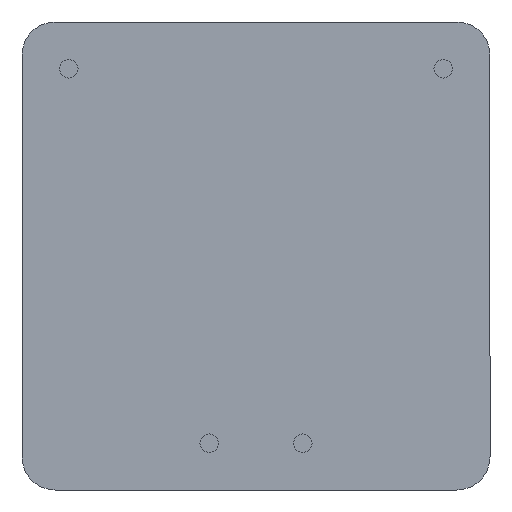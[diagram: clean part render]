
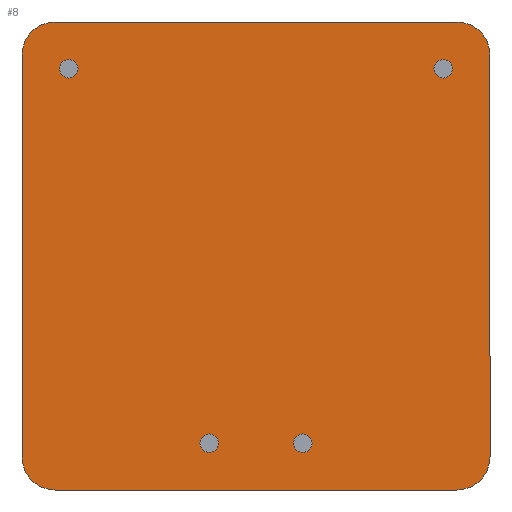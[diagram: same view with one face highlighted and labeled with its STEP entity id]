
A CAD part, front view. The second image highlights one B-rep face of the part: STEP entity #8.
In plain terms, the highlighted planar face has unit normal (0, -1, 0).
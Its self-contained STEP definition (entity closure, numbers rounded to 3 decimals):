
#8 = ADVANCED_FACE ( 'NONE', ( #973, #96, #1054, #1269, #175 ), #875, .F. ) ;
#44 = ORIENTED_EDGE ( 'NONE', *, *, #104, .T. ) ;
#50 = VERTEX_POINT ( 'NONE', #492 ) ;
#57 = CIRCLE ( 'NONE', #609, 0.5 ) ;
#58 = CIRCLE ( 'NONE', #780, 0.5 ) ;
#68 = ORIENTED_EDGE ( 'NONE', *, *, #709, .T. ) ;
#74 = DIRECTION ( 'NONE',  ( 0., 0., -1. ) ) ;
#78 = DIRECTION ( 'NONE',  ( 0., 1., 0. ) ) ;
#86 = LINE ( 'NONE', #1057, #587 ) ;
#96 = FACE_BOUND ( 'NONE', #1090, .T. ) ;
#104 = EDGE_CURVE ( 'NONE', #762, #664, #58, .T. ) ;
#112 = DIRECTION ( 'NONE',  ( 0., 0., 1. ) ) ;
#123 = VERTEX_POINT ( 'NONE', #910 ) ;
#134 = CARTESIAN_POINT ( 'NONE',  ( -10.16, -10.2, -22.86 ) ) ;
#149 = CARTESIAN_POINT ( 'NONE',  ( -10.16, -10.2, -22.86 ) ) ;
#155 = AXIS2_PLACEMENT_3D ( 'NONE', #805, #620, #732 ) ;
#166 = CARTESIAN_POINT ( 'NONE',  ( -15.24, -10.2, -22.86 ) ) ;
#175 = FACE_OUTER_BOUND ( 'NONE', #672, .T. ) ;
#186 = DIRECTION ( 'NONE',  ( 0., -1., 0. ) ) ;
#187 = AXIS2_PLACEMENT_3D ( 'NONE', #166, #78, #756 ) ;
#188 = DIRECTION ( 'NONE',  ( 0., -1., 0. ) ) ;
#191 = CIRCLE ( 'NONE', #424, 1.8 ) ;
#197 = LINE ( 'NONE', #1202, #1260 ) ;
#198 = ORIENTED_EDGE ( 'NONE', *, *, #332, .T. ) ;
#204 = DIRECTION ( 'NONE',  ( -1., 0., 0. ) ) ;
#207 = DIRECTION ( 'NONE',  ( 0., 0., 1. ) ) ;
#233 = AXIS2_PLACEMENT_3D ( 'NONE', #593, #971, #597 ) ;
#236 = AXIS2_PLACEMENT_3D ( 'NONE', #908, #500, #719 ) ;
#262 = CARTESIAN_POINT ( 'NONE',  ( -2.54, -10.2, -2.54 ) ) ;
#280 = ORIENTED_EDGE ( 'NONE', *, *, #602, .T. ) ;
#282 = ORIENTED_EDGE ( 'NONE', *, *, #454, .T. ) ;
#287 = ORIENTED_EDGE ( 'NONE', *, *, #312, .T. ) ;
#307 = ORIENTED_EDGE ( 'NONE', *, *, #586, .T. ) ;
#310 = CARTESIAN_POINT ( 'NONE',  ( 0., -10.2, 0. ) ) ;
#312 = EDGE_CURVE ( 'NONE', #1128, #50, #397, .T. ) ;
#316 = DIRECTION ( 'NONE',  ( 0., 0., 1. ) ) ;
#320 = VECTOR ( 'NONE', #204, 1000. ) ;
#332 = EDGE_CURVE ( 'NONE', #50, #1065, #1206, .T. ) ;
#339 = ORIENTED_EDGE ( 'NONE', *, *, #470, .T. ) ;
#341 = EDGE_CURVE ( 'NONE', #664, #762, #348, .T. ) ;
#342 = DIRECTION ( 'NONE',  ( 0., 1., 0. ) ) ;
#348 = CIRCLE ( 'NONE', #155, 0.5 ) ;
#362 = AXIS2_PLACEMENT_3D ( 'NONE', #415, #188, #1009 ) ;
#371 = ORIENTED_EDGE ( 'NONE', *, *, #983, .T. ) ;
#376 = EDGE_CURVE ( 'NONE', #1065, #532, #1011, .T. ) ;
#378 = DIRECTION ( 'NONE',  ( 0., 1., 0. ) ) ;
#383 = CIRCLE ( 'NONE', #1177, 0.5 ) ;
#392 = CARTESIAN_POINT ( 'NONE',  ( -23.6, -10.2, -1.8 ) ) ;
#394 = EDGE_CURVE ( 'NONE', #569, #123, #197, .T. ) ;
#397 = LINE ( 'NONE', #310, #1003 ) ;
#405 = CARTESIAN_POINT ( 'NONE',  ( -10.16, -10.2, -23.36 ) ) ;
#415 = CARTESIAN_POINT ( 'NONE',  ( -1.8, -10.2, -23.6 ) ) ;
#420 = EDGE_LOOP ( 'NONE', ( #280, #282 ) ) ;
#424 = AXIS2_PLACEMENT_3D ( 'NONE', #392, #186, #207 ) ;
#426 = CARTESIAN_POINT ( 'NONE',  ( -1.8, -10.2, 0. ) ) ;
#429 = ORIENTED_EDGE ( 'NONE', *, *, #629, .T. ) ;
#451 = VERTEX_POINT ( 'NONE', #1144 ) ;
#453 = CARTESIAN_POINT ( 'NONE',  ( -10.16, -10.2, -22.36 ) ) ;
#454 = EDGE_CURVE ( 'NONE', #832, #1001, #467, .T. ) ;
#467 = CIRCLE ( 'NONE', #725, 0.5 ) ;
#470 = EDGE_CURVE ( 'NONE', #538, #451, #1125, .T. ) ;
#474 = CARTESIAN_POINT ( 'NONE',  ( -2.54, -10.2, -2.54 ) ) ;
#476 = DIRECTION ( 'NONE',  ( 0., 1., 0. ) ) ;
#491 = DIRECTION ( 'NONE',  ( 0., 1., 0. ) ) ;
#492 = CARTESIAN_POINT ( 'NONE',  ( 0., -10.2, -1.8 ) ) ;
#500 = DIRECTION ( 'NONE',  ( 0., -1., 0. ) ) ;
#510 = DIRECTION ( 'NONE',  ( 0., 0., 1. ) ) ;
#521 = EDGE_CURVE ( 'NONE', #451, #538, #1018, .T. ) ;
#532 = VERTEX_POINT ( 'NONE', #594 ) ;
#538 = VERTEX_POINT ( 'NONE', #618 ) ;
#543 = CIRCLE ( 'NONE', #233, 1.8 ) ;
#562 = ORIENTED_EDGE ( 'NONE', *, *, #822, .T. ) ;
#569 = VERTEX_POINT ( 'NONE', #576 ) ;
#576 = CARTESIAN_POINT ( 'NONE',  ( -23.6, -10.2, -25.4 ) ) ;
#586 = EDGE_CURVE ( 'NONE', #814, #569, #543, .T. ) ;
#587 = VECTOR ( 'NONE', #74, 1000. ) ;
#593 = CARTESIAN_POINT ( 'NONE',  ( -23.6, -10.2, -23.6 ) ) ;
#594 = CARTESIAN_POINT ( 'NONE',  ( -23.6, -10.2, 0. ) ) ;
#597 = DIRECTION ( 'NONE',  ( 0., 0., 1. ) ) ;
#602 = EDGE_CURVE ( 'NONE', #1001, #832, #57, .T. ) ;
#609 = AXIS2_PLACEMENT_3D ( 'NONE', #474, #378, #995 ) ;
#618 = CARTESIAN_POINT ( 'NONE',  ( -15.24, -10.2, -23.36 ) ) ;
#619 = CARTESIAN_POINT ( 'NONE',  ( -22.86, -10.2, -2.54 ) ) ;
#620 = DIRECTION ( 'NONE',  ( 0., 1., 0. ) ) ;
#628 = DIRECTION ( 'NONE',  ( 0., 0., 1. ) ) ;
#629 = EDGE_CURVE ( 'NONE', #123, #1128, #1121, .T. ) ;
#664 = VERTEX_POINT ( 'NONE', #1172 ) ;
#668 = DIRECTION ( 'NONE',  ( 0., 1., 0. ) ) ;
#672 = EDGE_LOOP ( 'NONE', ( #68, #307, #1217, #429, #287, #198, #909, #371 ) ) ;
#679 = EDGE_LOOP ( 'NONE', ( #708, #44 ) ) ;
#708 = ORIENTED_EDGE ( 'NONE', *, *, #341, .T. ) ;
#709 = EDGE_CURVE ( 'NONE', #1265, #814, #86, .T. ) ;
#714 = VERTEX_POINT ( 'NONE', #453 ) ;
#719 = DIRECTION ( 'NONE',  ( 0., 0., 1. ) ) ;
#725 = AXIS2_PLACEMENT_3D ( 'NONE', #262, #668, #1053 ) ;
#732 = DIRECTION ( 'NONE',  ( 0., 0., 1. ) ) ;
#737 = CARTESIAN_POINT ( 'NONE',  ( -25.4, -10.2, -23.6 ) ) ;
#742 = DIRECTION ( 'NONE',  ( 0., 0., 1. ) ) ;
#756 = DIRECTION ( 'NONE',  ( 0., 0., 1. ) ) ;
#762 = VERTEX_POINT ( 'NONE', #1207 ) ;
#780 = AXIS2_PLACEMENT_3D ( 'NONE', #619, #997, #112 ) ;
#789 = EDGE_CURVE ( 'NONE', #977, #714, #383, .T. ) ;
#795 = DIRECTION ( 'NONE',  ( 0., 0., 1. ) ) ;
#805 = CARTESIAN_POINT ( 'NONE',  ( -22.86, -10.2, -2.54 ) ) ;
#814 = VERTEX_POINT ( 'NONE', #737 ) ;
#822 = EDGE_CURVE ( 'NONE', #714, #977, #1178, .T. ) ;
#832 = VERTEX_POINT ( 'NONE', #1245 ) ;
#846 = CARTESIAN_POINT ( 'NONE',  ( 0., -10.2, -23.6 ) ) ;
#855 = AXIS2_PLACEMENT_3D ( 'NONE', #134, #342, #742 ) ;
#875 = PLANE ( 'NONE',  #1042 ) ;
#908 = CARTESIAN_POINT ( 'NONE',  ( -1.8, -10.2, -1.8 ) ) ;
#909 = ORIENTED_EDGE ( 'NONE', *, *, #376, .T. ) ;
#910 = CARTESIAN_POINT ( 'NONE',  ( -1.8, -10.2, -25.4 ) ) ;
#968 = ORIENTED_EDGE ( 'NONE', *, *, #789, .T. ) ;
#971 = DIRECTION ( 'NONE',  ( 0., -1., 0. ) ) ;
#973 = FACE_BOUND ( 'NONE', #1203, .T. ) ;
#977 = VERTEX_POINT ( 'NONE', #405 ) ;
#983 = EDGE_CURVE ( 'NONE', #532, #1265, #191, .T. ) ;
#992 = DIRECTION ( 'NONE',  ( 1., 0., 0. ) ) ;
#995 = DIRECTION ( 'NONE',  ( 0., 0., 1. ) ) ;
#997 = DIRECTION ( 'NONE',  ( 0., 1., 0. ) ) ;
#1001 = VERTEX_POINT ( 'NONE', #1165 ) ;
#1003 = VECTOR ( 'NONE', #510, 1000. ) ;
#1009 = DIRECTION ( 'NONE',  ( 0., 0., 1. ) ) ;
#1011 = LINE ( 'NONE', #1077, #320 ) ;
#1018 = CIRCLE ( 'NONE', #1103, 0.5 ) ;
#1025 = CARTESIAN_POINT ( 'NONE',  ( -25.4, -10.2, -1.8 ) ) ;
#1042 = AXIS2_PLACEMENT_3D ( 'NONE', #1158, #476, #795 ) ;
#1053 = DIRECTION ( 'NONE',  ( 0., 0., 1. ) ) ;
#1054 = FACE_BOUND ( 'NONE', #420, .T. ) ;
#1057 = CARTESIAN_POINT ( 'NONE',  ( -25.4, -10.2, 0. ) ) ;
#1065 = VERTEX_POINT ( 'NONE', #426 ) ;
#1077 = CARTESIAN_POINT ( 'NONE',  ( 0., -10.2, 0. ) ) ;
#1090 = EDGE_LOOP ( 'NONE', ( #1252, #339 ) ) ;
#1092 = CARTESIAN_POINT ( 'NONE',  ( -15.24, -10.2, -22.86 ) ) ;
#1103 = AXIS2_PLACEMENT_3D ( 'NONE', #1092, #491, #316 ) ;
#1121 = CIRCLE ( 'NONE', #362, 1.8 ) ;
#1125 = CIRCLE ( 'NONE', #187, 0.5 ) ;
#1128 = VERTEX_POINT ( 'NONE', #846 ) ;
#1144 = CARTESIAN_POINT ( 'NONE',  ( -15.24, -10.2, -22.36 ) ) ;
#1158 = CARTESIAN_POINT ( 'NONE',  ( 0., -10.2, -25.4 ) ) ;
#1165 = CARTESIAN_POINT ( 'NONE',  ( -2.54, -10.2, -2.04 ) ) ;
#1172 = CARTESIAN_POINT ( 'NONE',  ( -22.86, -10.2, -2.04 ) ) ;
#1177 = AXIS2_PLACEMENT_3D ( 'NONE', #149, #1230, #628 ) ;
#1178 = CIRCLE ( 'NONE', #855, 0.5 ) ;
#1202 = CARTESIAN_POINT ( 'NONE',  ( 0., -10.2, -25.4 ) ) ;
#1203 = EDGE_LOOP ( 'NONE', ( #562, #968 ) ) ;
#1206 = CIRCLE ( 'NONE', #236, 1.8 ) ;
#1207 = CARTESIAN_POINT ( 'NONE',  ( -22.86, -10.2, -3.04 ) ) ;
#1217 = ORIENTED_EDGE ( 'NONE', *, *, #394, .T. ) ;
#1230 = DIRECTION ( 'NONE',  ( 0., 1., 0. ) ) ;
#1245 = CARTESIAN_POINT ( 'NONE',  ( -2.54, -10.2, -3.04 ) ) ;
#1252 = ORIENTED_EDGE ( 'NONE', *, *, #521, .T. ) ;
#1260 = VECTOR ( 'NONE', #992, 1000. ) ;
#1265 = VERTEX_POINT ( 'NONE', #1025 ) ;
#1269 = FACE_BOUND ( 'NONE', #679, .T. ) ;
